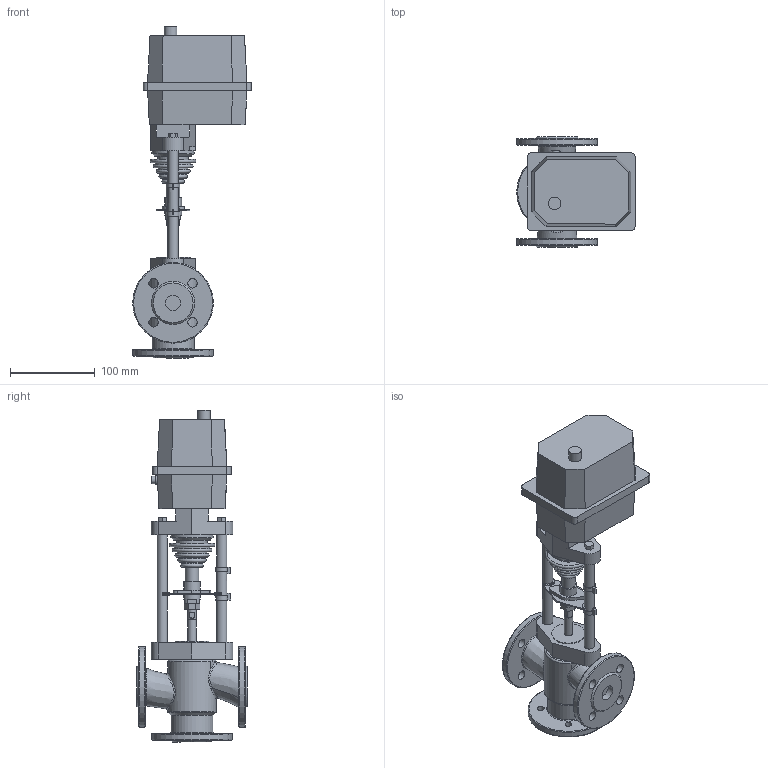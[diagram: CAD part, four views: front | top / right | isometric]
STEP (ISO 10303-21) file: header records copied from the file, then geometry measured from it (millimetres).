
FILE_DESCRIPTION(/* description */ (''),/* implementation_level */ '2;1');
FILE_NAME(/* name */ 'D:\Работа\work by\2017.01.17. клапаны для КПСР 3-хходоввые\Готовые файлы\ST mini\iges\Ду 15-1.stp',/* time_stamp */ '2017-02-19T17:06:43+03:00',/* author */ ('Admin'),/* organization */ ('unknown'),/* preprocessor_version */ 'ST-DEVELOPER v16.1',/* originating_system */ 'Autodesk Inventor 2016',/* authorisation */ '');
FILE_SCHEMA (('AUTOMOTIVE_DESIGN { 1 0 10303 214 3 1 1 }'));
Length unit declared in the file: millimetre
Products named in the file (2): Ду 15; Assembly1
Assembly tree (1 placements, depth 2):
  Assembly1
    Ду 15
Bounding box: 139.61 x 130 x 391.29 mm (x, y, z)
Volume: 1635820.7 mm3; surface area: 177782.8 mm2
Topology: 1 solids, 2 shells, 245 faces, 600 edges, 392 vertices
Faces by surface type: plane 151, cylinder 62, torus 15, bspline 10, cone 7
Full cylindrical faces by diameter (mm): 8 x4, 8.5 x1, 8.89 x1, 9.6 x1, 10 x2, 10.272 x1, 11 x8, 12 x4, 14.958 x1, 16 x1, 18 x3, 20 x2, 22.287 x1, 29.215 x1, 36 x1, 36.144 x1, 40 x1, 43.072 x1, 49.4 x1, 50 x1, 57.2 x1, 95 x3
Entity records: 8030 total; most frequent: CARTESIAN_POINT 2426, DIRECTION 1138, ORIENTED_EDGE 1036, EDGE_CURVE 518, AXIS2_PLACEMENT_3D 410, EDGE_LOOP 377, VERTEX_POINT 375, LINE 318
